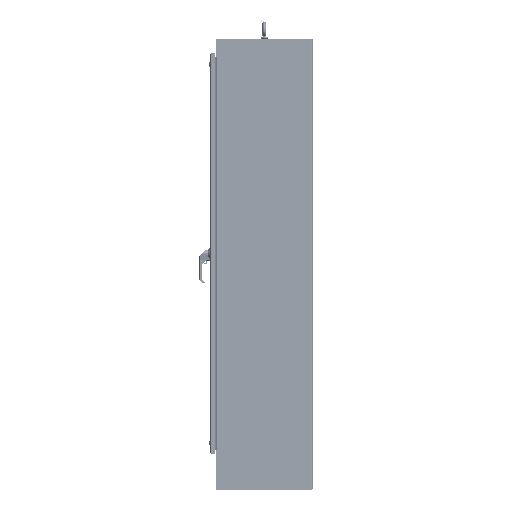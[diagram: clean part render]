
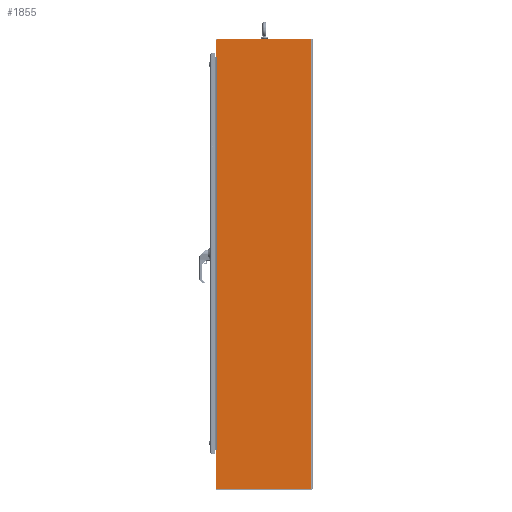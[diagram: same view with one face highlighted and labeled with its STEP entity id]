
A CAD part, front view. The second image highlights one B-rep face of the part: STEP entity #1855.
In plain terms, the highlighted planar face has unit normal (0, -1, 0).
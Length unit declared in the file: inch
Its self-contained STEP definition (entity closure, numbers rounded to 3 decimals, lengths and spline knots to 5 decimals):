
#84=DIRECTION('',(0.,0.,-1.));
#85=VECTOR('',#84,7.16077);
#86=CARTESIAN_POINT('',(0.,-0.104,-76.48873));
#87=LINE('',#86,#85);
#98=DIRECTION('',(0.,0.,-1.));
#99=VECTOR('',#98,3.16077);
#100=CARTESIAN_POINT('',(0.,-0.104,-0.1425));
#101=LINE('',#100,#99);
#166=DIRECTION('',(0.,0.,1.));
#167=VECTOR('',#166,73.104);
#168=CARTESIAN_POINT('',(0.1425,-0.104,-76.448));
#169=LINE('',#168,#167);
#257=CARTESIAN_POINT('',(0.1425,-0.104,-83.6495));
#258=DIRECTION('',(0.,-1.,0.));
#259=DIRECTION('',(-1.,0.,0.));
#260=AXIS2_PLACEMENT_3D('',#257,#258,#259);
#265=DIRECTION('',(0.985,0.,0.174));
#266=VECTOR('',#265,0.1447);
#267=CARTESIAN_POINT('',(0.,-0.104,-76.48873));
#268=LINE('',#267,#266);
#272=DIRECTION('',(0.,0.,-1.));
#273=VECTOR('',#272,0.0156);
#274=CARTESIAN_POINT('',(0.1425,-0.104,-76.448));
#275=LINE('',#274,#273);
#279=DIRECTION('',(0.,0.,1.));
#280=VECTOR('',#279,0.0156);
#281=CARTESIAN_POINT('',(0.1425,-0.104,-3.344));
#282=LINE('',#281,#280);
#286=DIRECTION('',(0.985,0.,-0.174));
#287=VECTOR('',#286,0.1447);
#288=CARTESIAN_POINT('',(0.,-0.104,-3.30327));
#289=LINE('',#288,#287);
#293=CARTESIAN_POINT('',(0.1425,-0.104,-0.1425));
#294=DIRECTION('',(0.,-1.,0.));
#295=DIRECTION('',(0.,0.,1.));
#296=AXIS2_PLACEMENT_3D('',#293,#294,#295);
#315=DIRECTION('',(-1.,0.,0.));
#316=VECTOR('',#315,17.507);
#317=CARTESIAN_POINT('',(17.6495,-0.104,0.));
#318=LINE('',#317,#316);
#344=DIRECTION('',(0.,0.,-1.));
#345=VECTOR('',#344,83.792);
#346=CARTESIAN_POINT('',(17.6495,-0.104,0.));
#347=LINE('',#346,#345);
#560=DIRECTION('',(1.,0.,0.));
#561=VECTOR('',#560,17.507);
#562=CARTESIAN_POINT('',(0.1425,-0.104,-83.792));
#563=LINE('',#562,#561);
#1219=CARTESIAN_POINT('',(17.6495,-0.104,-83.792));
#1220=VERTEX_POINT('',#1219);
#1221=CARTESIAN_POINT('',(17.6495,-0.104,0.));
#1222=VERTEX_POINT('',#1221);
#1236=CARTESIAN_POINT('',(0.1425,-0.104,-76.448));
#1238=VERTEX_POINT('',#1236);
#1249=CARTESIAN_POINT('',(0.1425,-0.104,-3.344));
#1250=CARTESIAN_POINT('',(0.1425,-0.104,-3.3284));
#1251=VERTEX_POINT('',#1249);
#1252=VERTEX_POINT('',#1250);
#1253=CARTESIAN_POINT('',(0.,-0.104,-3.30327));
#1254=VERTEX_POINT('',#1253);
#1259=CARTESIAN_POINT('',(0.1425,-0.104,-76.4636));
#1260=VERTEX_POINT('',#1259);
#1261=CARTESIAN_POINT('',(0.,-0.104,-76.48873));
#1262=VERTEX_POINT('',#1261);
#1319=CARTESIAN_POINT('',(0.,-0.104,-83.6495));
#1320=VERTEX_POINT('',#1319);
#1321=CARTESIAN_POINT('',(0.1425,-0.104,-83.792));
#1322=VERTEX_POINT('',#1321);
#1327=CARTESIAN_POINT('',(0.1425,-0.104,0.));
#1328=VERTEX_POINT('',#1327);
#1329=CARTESIAN_POINT('',(0.,-0.104,-0.1425));
#1330=VERTEX_POINT('',#1329);
#1832=CARTESIAN_POINT('',(17.844,-0.104,0.));
#1833=DIRECTION('',(0.,1.,0.));
#1834=DIRECTION('',(-1.,0.,0.));
#1835=AXIS2_PLACEMENT_3D('',#1832,#1833,#1834);
#1836=PLANE('',#1835);
#1837=ORIENTED_EDGE('',*,*,#1450,.F.);
#1838=ORIENTED_EDGE('',*,*,#1473,.F.);
#1839=ORIENTED_EDGE('',*,*,#1582,.T.);
#1840=ORIENTED_EDGE('',*,*,#1580,.F.);
#1841=ORIENTED_EDGE('',*,*,#1609,.T.);
#1842=ORIENTED_EDGE('',*,*,#1820,.T.);
#1843=ORIENTED_EDGE('',*,*,#1818,.F.);
#1844=ORIENTED_EDGE('',*,*,#1492,.F.);
#1846=ORIENTED_EDGE('',*,*,#1845,.F.);
#1848=ORIENTED_EDGE('',*,*,#1847,.F.);
#1850=ORIENTED_EDGE('',*,*,#1849,.T.);
#1852=ORIENTED_EDGE('',*,*,#1851,.F.);
#1853=EDGE_LOOP('',(#1837,#1838,#1839,#1840,#1841,#1842,#1843,#1844,#1846,#1848,
#1850,#1852));
#1854=FACE_OUTER_BOUND('',#1853,.F.);
#261=CIRCLE('',#260,0.1425);
#297=CIRCLE('',#296,0.1425);
#1450=EDGE_CURVE('',#1320,#1322,#261,.T.);
#1473=EDGE_CURVE('',#1262,#1320,#87,.T.);
#1492=EDGE_CURVE('',#1330,#1254,#101,.T.);
#1580=EDGE_CURVE('',#1238,#1260,#275,.T.);
#1582=EDGE_CURVE('',#1262,#1260,#268,.T.);
#1609=EDGE_CURVE('',#1238,#1251,#169,.T.);
#1818=EDGE_CURVE('',#1254,#1252,#289,.T.);
#1820=EDGE_CURVE('',#1251,#1252,#282,.T.);
#1845=EDGE_CURVE('',#1328,#1330,#297,.T.);
#1847=EDGE_CURVE('',#1222,#1328,#318,.T.);
#1849=EDGE_CURVE('',#1222,#1220,#347,.T.);
#1851=EDGE_CURVE('',#1322,#1220,#563,.T.);
#1855=ADVANCED_FACE('',(#1854),#1836,.F.);
